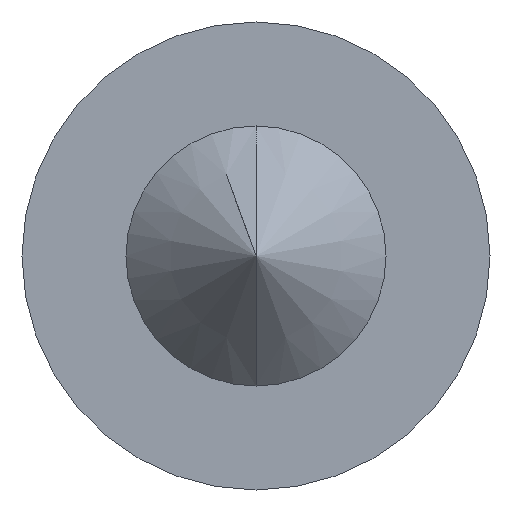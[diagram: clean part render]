
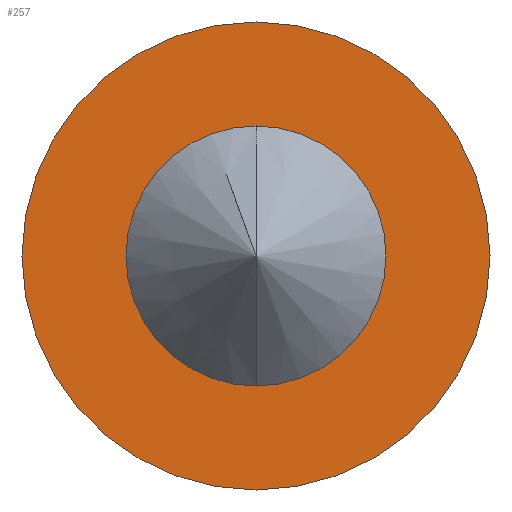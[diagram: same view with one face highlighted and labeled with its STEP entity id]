
A CAD part, front view. The second image highlights one B-rep face of the part: STEP entity #257.
In plain terms, the highlighted planar face has unit normal (0, -1, 0).
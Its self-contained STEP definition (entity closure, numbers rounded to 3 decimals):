
#11 = CIRCLE ( 'NONE', #247, 2.7 ) ;
#16 = DIRECTION ( 'NONE',  ( 0., 1., 0. ) ) ;
#17 = CIRCLE ( 'NONE', #236, 1.5 ) ;
#21 = DIRECTION ( 'NONE',  ( 0., 1., 0. ) ) ;
#37 = CARTESIAN_POINT ( 'NONE',  ( 0., 6., 0. ) ) ;
#46 = DIRECTION ( 'NONE',  ( 0., 0., 1. ) ) ;
#47 = VERTEX_POINT ( 'NONE', #99 ) ;
#74 = EDGE_CURVE ( 'NONE', #430, #392, #298, .T. ) ;
#86 = FACE_OUTER_BOUND ( 'NONE', #150, .T. ) ;
#99 = CARTESIAN_POINT ( 'NONE',  ( 0., 6., -2.7 ) ) ;
#112 = DIRECTION ( 'NONE',  ( 0., 1., 0. ) ) ;
#116 = CARTESIAN_POINT ( 'NONE',  ( 0., 6., 0. ) ) ;
#117 = AXIS2_PLACEMENT_3D ( 'NONE', #265, #112, #237 ) ;
#118 = ORIENTED_EDGE ( 'NONE', *, *, #400, .F. ) ;
#129 = ORIENTED_EDGE ( 'NONE', *, *, #209, .F. ) ;
#141 = DIRECTION ( 'NONE',  ( 0., 0., 1. ) ) ;
#149 = DIRECTION ( 'NONE',  ( 0., 0., 1. ) ) ;
#150 = EDGE_LOOP ( 'NONE', ( #118, #129 ) ) ;
#151 = DIRECTION ( 'NONE',  ( 0., 1., 0. ) ) ;
#154 = DIRECTION ( 'NONE',  ( 0., 0., 1. ) ) ;
#165 = EDGE_CURVE ( 'NONE', #392, #430, #17, .T. ) ;
#182 = CARTESIAN_POINT ( 'NONE',  ( 0., 6., 0. ) ) ;
#187 = PLANE ( 'NONE',  #305 ) ;
#201 = CARTESIAN_POINT ( 'NONE',  ( 0., 6., 1.5 ) ) ;
#203 = DIRECTION ( 'NONE',  ( 0., 1., 0. ) ) ;
#209 = EDGE_CURVE ( 'NONE', #271, #47, #11, .T. ) ;
#210 = CARTESIAN_POINT ( 'NONE',  ( 0., 6., 0. ) ) ;
#236 = AXIS2_PLACEMENT_3D ( 'NONE', #116, #151, #46 ) ;
#237 = DIRECTION ( 'NONE',  ( 0., 0., 1. ) ) ;
#247 = AXIS2_PLACEMENT_3D ( 'NONE', #182, #16, #149 ) ;
#257 = ADVANCED_FACE ( 'NONE', ( #386, #86 ), #187, .F. ) ;
#265 = CARTESIAN_POINT ( 'NONE',  ( 0., 6., 0. ) ) ;
#271 = VERTEX_POINT ( 'NONE', #282 ) ;
#276 = ORIENTED_EDGE ( 'NONE', *, *, #74, .T. ) ;
#282 = CARTESIAN_POINT ( 'NONE',  ( 0., 6., 2.7 ) ) ;
#298 = CIRCLE ( 'NONE', #117, 1.5 ) ;
#305 = AXIS2_PLACEMENT_3D ( 'NONE', #210, #21, #154 ) ;
#312 = AXIS2_PLACEMENT_3D ( 'NONE', #37, #203, #141 ) ;
#350 = ORIENTED_EDGE ( 'NONE', *, *, #165, .T. ) ;
#386 = FACE_BOUND ( 'NONE', #399, .T. ) ;
#392 = VERTEX_POINT ( 'NONE', #437 ) ;
#399 = EDGE_LOOP ( 'NONE', ( #350, #276 ) ) ;
#400 = EDGE_CURVE ( 'NONE', #47, #271, #433, .T. ) ;
#430 = VERTEX_POINT ( 'NONE', #201 ) ;
#433 = CIRCLE ( 'NONE', #312, 2.7 ) ;
#437 = CARTESIAN_POINT ( 'NONE',  ( 0., 6., -1.5 ) ) ;
